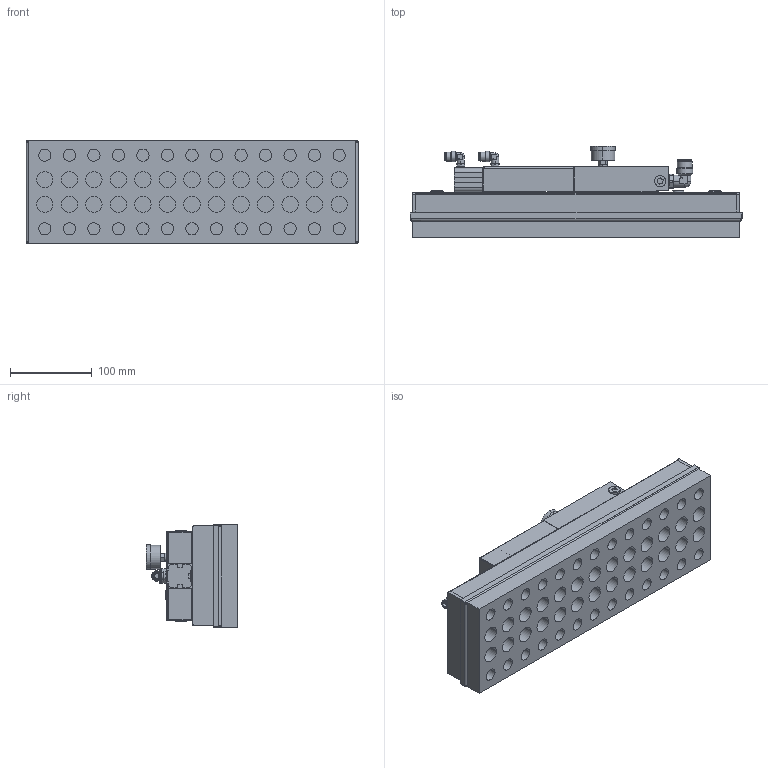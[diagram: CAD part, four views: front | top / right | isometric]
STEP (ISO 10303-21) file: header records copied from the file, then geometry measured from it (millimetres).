
FILE_DESCRIPTION (( 'STEP AP214' ), '1' );
FILE_NAME ('3-9-15244.STEP', '2012-08-30T08:07:50', ( 'cad' ), ( 'Microsoft' ), 'SwSTEP 2.0', 'SolidWorks 2012', '' );
FILE_SCHEMA (( 'AUTOMOTIVE_DESIGN' ));
Length unit declared in the file: millimetre
Products named in the file (1): 3-9-15244
Bounding box: 406 x 111.5 x 126 mm (x, y, z)
Volume: 3080258.1 mm3; surface area: 342049.4 mm2
Topology: 1 solids, 1 shells, 910 faces, 2183 edges, 1366 vertices
Faces by surface type: plane 508, cylinder 309, cone 80, bspline 8, sphere 5
Entity records: 34326 total; most frequent: CARTESIAN_POINT 5090, DIRECTION 4627, ORIENTED_EDGE 4366, EDGE_CURVE 2183, AXIS2_PLACEMENT_3D 1647, VERTEX_POINT 1366, LINE 1333, VECTOR 1333
